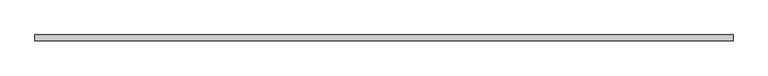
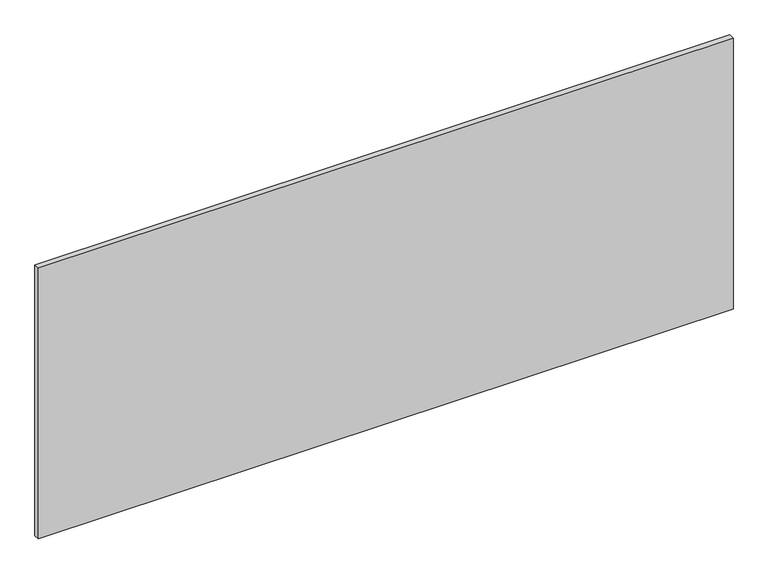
"""IFC4 building model written with IfcOpenShell, lengths in millimetres: proxy geometry, SU.HS.FOOT.1050."""

from ifc_helpers import new_model, si_unit, frame, origin, place, context, project, spatial, polyline, outline, extrude, source, transform, mapped, element, save


def generic_models_1de174ea(model_context):
    return source(origin(), model_context, "Body", "SweptSolid", [
        extrude(outline(polyline([(-606.0, 0.0), (606.0, 0.0), (606.0, -10.0), (-606.0, -10.0), (-606.0, 0.0)])), frame((0.0, 0.0, -100.0), z_axis=(0.0, 0.0, 1.0), x_axis=(1.0, 0.0, 0.0)), (0.0, 0.0, 1.0), 500.0),
    ])


if __name__ == "__main__":
    model = new_model("IFC4")
    model_context = context("Model", 3, world=origin())
    ifc_project = project(units=[si_unit("LENGTHUNIT", "METRE", prefix="MILLI")], contexts=[model_context])
    site = spatial("IfcSite", under=ifc_project)
    building = spatial("IfcBuilding", under=site)
    placement = place(None, origin())
    generic_models_shape = generic_models_1de174ea(model_context)
    element("IfcBuildingElementProxy", 1, Name="SU.HS.FOOT.1050", ObjectType="SU.HS.FOOT.1050", at=placement, inside=building, context=model_context, shape_type="MappedRepresentation", body=[
        mapped(generic_models_shape, transform((0.0, 0.0, 0.0), x_axis=(1.0, 0.0, 0.0), y_axis=(0.0, 1.0, 0.0), z_axis=(0.0, 0.0, 1.0))),
    ])
    save(model, "model.ifc")
